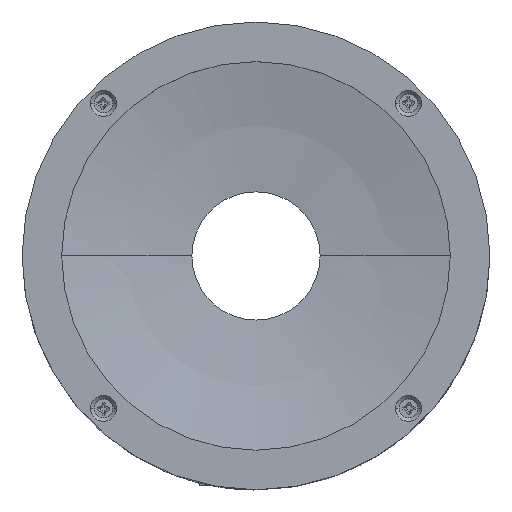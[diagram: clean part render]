
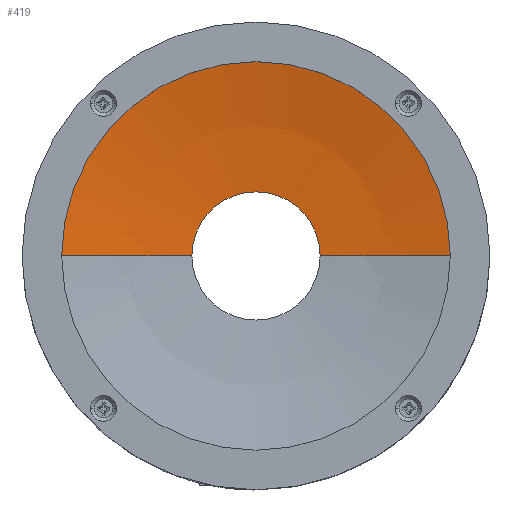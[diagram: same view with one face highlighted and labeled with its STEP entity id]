
A CAD part, top view. The second image highlights one B-rep face of the part: STEP entity #419.
In plain terms, the highlighted spherical face has radius 230.14 mm.
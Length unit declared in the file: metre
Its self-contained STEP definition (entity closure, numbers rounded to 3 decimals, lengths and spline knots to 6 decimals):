
#419=ADVANCED_FACE('8:12498',(#1018),#1019,.F.);
#1018=FACE_OUTER_BOUND('',#1815,.T.);
#1019=SPHERICAL_SURFACE('',#1816,0.23014);
#1815=EDGE_LOOP('',(#3270,#3271,#3272,#3273,#3274));
#1816=AXIS2_PLACEMENT_3D('',#3275,#3276,#3277);
#3270=ORIENTED_EDGE('',*,*,#5876,.F.);
#3271=ORIENTED_EDGE('',*,*,#5869,.F.);
#3272=ORIENTED_EDGE('',*,*,#5877,.F.);
#3273=ORIENTED_EDGE('',*,*,#5878,.F.);
#3274=ORIENTED_EDGE('',*,*,#5879,.F.);
#3275=CARTESIAN_POINT('',(0.0,0.0,0.23456));
#3276=DIRECTION('',(0.0,0.0,1.0));
#3277=DIRECTION('',(1.0,0.0,0.0));
#5869=EDGE_CURVE('8:13194',#7660,#7656,#7662,.T.);
#5876=EDGE_CURVE('',#7656,#7673,#7674,.T.);
#5877=EDGE_CURVE('',#7675,#7660,#7676,.T.);
#5878=EDGE_CURVE('8:21869',#7677,#7675,#7678,.T.);
#5879=EDGE_CURVE('8:21869',#7673,#7677,#7679,.T.);
#7656=VERTEX_POINT('',#12040);
#7660=VERTEX_POINT('',#12045);
#7662=CIRCLE('',#12048,0.0165);
#7673=VERTEX_POINT('',#12061);
#7674=CIRCLE('',#12062,0.23014);
#7675=VERTEX_POINT('',#12063);
#7676=CIRCLE('',#12064,0.23014);
#7677=VERTEX_POINT('',#12065);
#7678=CIRCLE('',#12066,0.050147);
#7679=CIRCLE('',#12067,0.050147);
#12040=CARTESIAN_POINT('',(-0.0165,0.,0.005012));
#12045=CARTESIAN_POINT('',(0.0165,0.,0.005012));
#12048=AXIS2_PLACEMENT_3D('',#14633,#14634,#14635);
#12061=CARTESIAN_POINT('',(-0.050147,0.,0.00995));
#12062=AXIS2_PLACEMENT_3D('',#14644,#14645,#14646);
#12063=CARTESIAN_POINT('',(0.050147,0.,0.00995));
#12064=AXIS2_PLACEMENT_3D('',#14647,#14648,#14649);
#12065=CARTESIAN_POINT('',(0.,0.050147,0.00995));
#12066=AXIS2_PLACEMENT_3D('',#14650,#14651,#14652);
#12067=AXIS2_PLACEMENT_3D('',#14653,#14654,#14655);
#14633=CARTESIAN_POINT('',(0.0,0.0,0.005012));
#14634=DIRECTION('',(0.0,0.0,1.0));
#14635=DIRECTION('',(-1.0,0.0,0.0));
#14644=CARTESIAN_POINT('',(0.0,0.0,0.23456));
#14645=DIRECTION('',(0.,1.0,0.0));
#14646=DIRECTION('',(-0.0,0.0,1.0));
#14647=CARTESIAN_POINT('',(0.0,0.0,0.23456));
#14648=DIRECTION('',(0.,1.0,0.0));
#14649=DIRECTION('',(-0.0,0.0,1.0));
#14650=CARTESIAN_POINT('',(0.0,0.0,0.00995));
#14651=DIRECTION('',(-0.0,-0.0,-1.0));
#14652=DIRECTION('',(0.0,-1.0,0.0));
#14653=CARTESIAN_POINT('',(0.0,0.0,0.00995));
#14654=DIRECTION('',(-0.0,-0.0,-1.0));
#14655=DIRECTION('',(0.0,-1.0,0.0));
